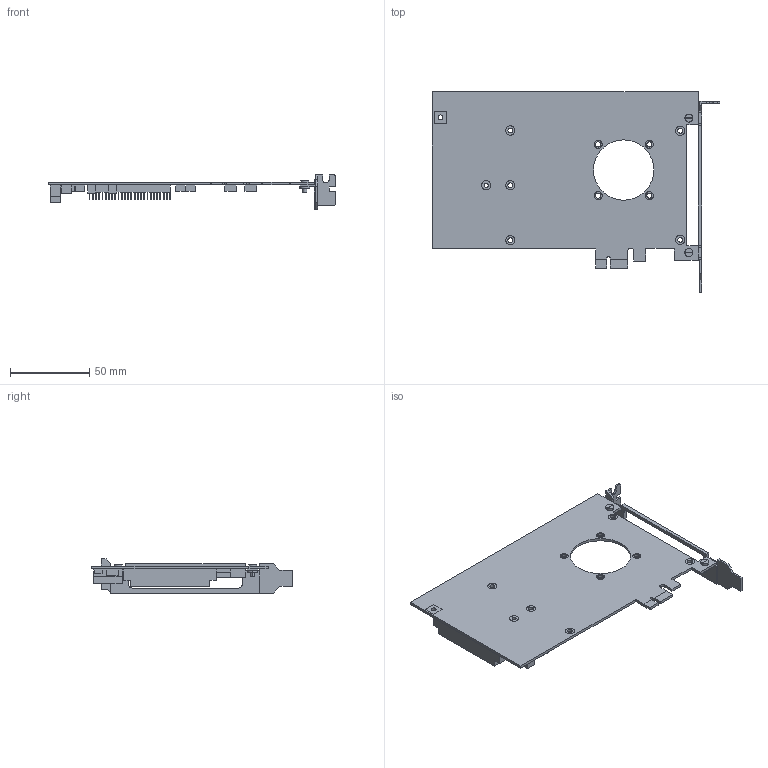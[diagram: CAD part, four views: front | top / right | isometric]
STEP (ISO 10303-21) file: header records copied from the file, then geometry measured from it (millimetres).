
FILE_DESCRIPTION (( 'STEP AP214' ), '1' );
FILE_NAME ('PCIE-PMC-0-0_REV_A.STEP', '2022-07-17T21:32:11', ( '' ), ( '' ), 'SwSTEP 2.0', 'SolidWorks 2021', '' );
FILE_SCHEMA (( 'AUTOMOTIVE_DESIGN' ));
Length unit declared in the file: inch
Products named in the file (10): PCIE-PMC-0-0_REV_A; PCIE4_Cap1; PCIE4_HeatSync; PCIE4_Comp1; PCIE4_Card; PCIE4_Cap2; PCIE4_Clip; PCIE4_Plug3; PCIE4_Plug; PCIE4_Screw
Assembly tree (17 placements, depth 2):
  PCIE-PMC-0-0_REV_A
    PCIE4_Card
    PCIE4_Clip
    PCIE4_HeatSync
    PCIE4_Cap1  x6
    PCIE4_Cap2
    PCIE4_Screw  x2
    PCIE4_Comp1
    PCIE4_Plug3
    PCIE4_Plug  x3
Bounding box: 181.1 x 126.24 x 21.59 mm (x, y, z)
Volume: 40645.5 mm3; surface area: 50911.1 mm2
Topology: 17 solids, 17 shells, 389 faces, 1008 edges, 687 vertices
Faces by surface type: plane 336, cylinder 53
Entity records: 10826 total; most frequent: CARTESIAN_POINT 1771, ORIENTED_EDGE 1704, DIRECTION 1666, EDGE_CURVE 852, LINE 710, VECTOR 710, VERTEX_POINT 583, AXIS2_PLACEMENT_3D 478
